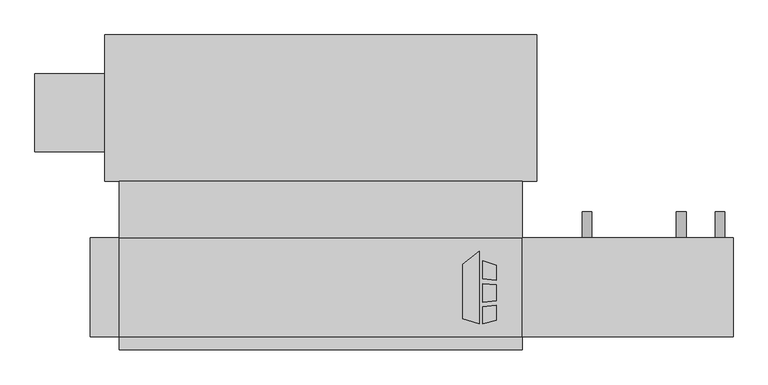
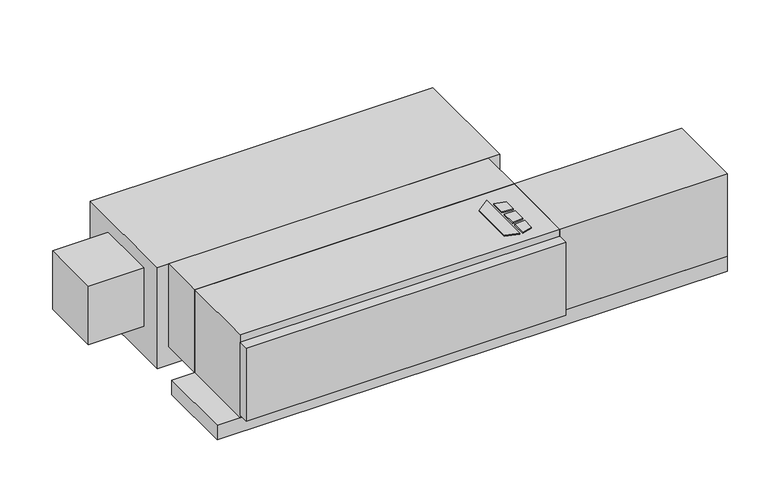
"""IFC4 building model written with IfcOpenShell, lengths in millimetres: proxy geometry, Concealed_Horizontal_Fan_Coil_Unit_With_Plenum_-_CPF_-_IEC_-_4-Pipe_RH : Size 06 - 115v/60Hz/1Ph - 4/1 Coil."""

from ifc_helpers import new_model, si_unit, point, frame, frame_2d, origin, origin_with_axes, place, context, project, spatial, polyline, circle_curve, trimmed, segment, composite_curve, outline, extrude, source, transform, mapped, element, save


def mechanical_equipment_e39a46a9(model_context):
    return source(origin(), model_context, "Body", "SweptSolid", [
        extrude(outline(polyline([(429.9019761, -193.0453476), (462.4602728, -167.6080184), (462.4602728, -309.5625), (429.9019761, -299.3429201), (429.9019761, -193.0453476)])), origin_with_axes(), (0.0, 0.0, 1.0), 3.175),
        extrude(outline(polyline([(469.2186058, -220.917352), (469.2186058, -186.4374379), (495.3, -194.6240115), (495.3, -224.1197446), (469.2186058, -220.917352)])), origin_with_axes(), (0.0, 0.0, 1.0), 3.175),
        extrude(outline(polyline([(495.3, -302.5740115), (469.2186058, -309.5625), (469.2186058, -276.3411996), (495.3, -272.7993564), (495.3, -302.5740115)])), origin_with_axes(), (0.0, 0.0, 1.0), 3.175),
        extrude(outline(polyline([(495.3, -233.2013277), (495.3, -264.451483), (469.2186058, -267.192748), (469.2186058, -231.3350378), (495.3, -233.2013277)])), origin_with_axes(), (0.0, 0.0, 1.0), 3.175),
        extrude(outline(polyline([(-241.3, -30.1625), (546.1, -30.1625), (546.1, -141.2875), (-241.3, -141.2875), (-241.3, -30.1625)])), frame((0.0, 0.0, -215.9), z_axis=(0.0, 0.0, 1.0), x_axis=(1.0, 0.0, 0.0)), (0.0, 0.0, 1.0), 215.9),
        extrude(outline(composite_curve([segment(trimmed(circle_curve(frame_2d((-158.75, 857.25)), 9.525), [point((-158.75, 866.775))], [point((-158.75, 847.725))], False, "CARTESIAN"), True, "CONTINUOUS"), segment(trimmed(circle_curve(frame_2d((-158.75, 857.25)), 9.525), [point((-158.75, 847.725))], [point((-158.75, 866.775))], False, "CARTESIAN"), True, "CONTINUOUS")], self_intersect=False)), frame((0.0, -141.2875, 0.0), z_axis=(0.0, 1.0, 0.0), x_axis=(0.0, 0.0, 1.0)), (0.0, 0.0, 1.0), 50.8),
        extrude(outline(composite_curve([segment(trimmed(circle_curve(frame_2d((-69.85, 857.25)), 9.525), [point((-69.85, 866.775))], [point((-69.85, 847.725))], False, "CARTESIAN"), True, "CONTINUOUS"), segment(trimmed(circle_curve(frame_2d((-69.85, 857.25)), 9.525), [point((-69.85, 847.725))], [point((-69.85, 866.775))], False, "CARTESIAN"), True, "CONTINUOUS")], self_intersect=False)), frame((0.0, -141.2875, 0.0), z_axis=(0.0, 1.0, 0.0), x_axis=(0.0, 0.0, 1.0)), (0.0, 0.0, 1.0), 50.8),
        extrude(outline(composite_curve([segment(trimmed(circle_curve(frame_2d((-69.85, 673.1)), 9.525), [point((-69.85, 682.625))], [point((-69.85, 663.575))], False, "CARTESIAN"), True, "CONTINUOUS"), segment(trimmed(circle_curve(frame_2d((-69.85, 673.1)), 9.525), [point((-69.85, 663.575))], [point((-69.85, 682.625))], False, "CARTESIAN"), True, "CONTINUOUS")], self_intersect=False)), frame((0.0, -141.2875, 0.0), z_axis=(0.0, 1.0, 0.0), x_axis=(0.0, 0.0, 1.0)), (0.0, 0.0, 1.0), 50.8),
        extrude(outline(composite_curve([segment(trimmed(circle_curve(frame_2d((-158.75, 673.1)), 9.525), [point((-158.75, 682.625))], [point((-158.75, 663.575))], False, "CARTESIAN"), True, "CONTINUOUS"), segment(trimmed(circle_curve(frame_2d((-158.75, 673.1)), 9.525), [point((-158.75, 663.575))], [point((-158.75, 682.625))], False, "CARTESIAN"), True, "CONTINUOUS")], self_intersect=False)), frame((0.0, -141.2875, 0.0), z_axis=(0.0, 1.0, 0.0), x_axis=(0.0, 0.0, 1.0)), (0.0, 0.0, 1.0), 50.8),
        extrude(outline(polyline([(958.85, -141.2875), (958.85, -334.9625), (546.1, -334.9625), (546.1, -141.2875), (958.85, -141.2875)])), frame((0.0, 0.0, -215.9), z_axis=(0.0, 0.0, 1.0), x_axis=(1.0, 0.0, 0.0)), (0.0, 0.0, 1.0), 215.9),
        extrude(outline(composite_curve([segment(trimmed(circle_curve(frame_2d((-241.3, 933.45)), 9.525), [point((-241.3, 923.925))], [point((-241.3, 942.975))], False, "CARTESIAN"), True, "CONTINUOUS"), segment(trimmed(circle_curve(frame_2d((-241.3, 933.45)), 9.525), [point((-241.3, 942.975))], [point((-241.3, 923.925))], False, "CARTESIAN"), True, "CONTINUOUS")], self_intersect=False)), frame((0.0, -141.2875, 0.0), z_axis=(0.0, 1.0, 0.0), x_axis=(0.0, 0.0, 1.0)), (0.0, 0.0, 1.0), 50.8),
        extrude(outline(polyline([(546.1, -334.9625), (546.1, -360.3625), (-241.3, -360.3625), (-241.3, -334.9625), (546.1, -334.9625)])), frame((0.0, 0.0, -209.55), z_axis=(0.0, 0.0, 1.0), x_axis=(1.0, 0.0, 0.0)), (0.0, 0.0, 1.0), 190.5),
        extrude(outline(polyline([(546.1, -334.9625), (-241.3, -334.9625), (-241.3, -141.2875), (546.1, -141.2875), (546.1, -334.9625)])), frame((0.0, 0.0, -215.9), z_axis=(0.0, 0.0, 1.0), x_axis=(1.0, 0.0, 0.0)), (0.0, 0.0, 1.0), 215.9),
        extrude(outline(polyline([(958.85, -141.2875), (958.85, -334.9625), (-298.45, -334.9625), (-298.45, -141.2875), (958.85, -141.2875)])), frame((0.0, 0.0, -254.0), z_axis=(0.0, 0.0, 1.0), x_axis=(1.0, 0.0, 0.0)), (0.0, 0.0, 1.0), 38.1),
        extrude(outline(polyline([(-406.4, 26.9875), (-406.4, 179.3875), (-269.875, 179.3875), (-269.875, 26.9875), (-406.4, 26.9875)])), frame((0.0, 0.0, -187.325), z_axis=(0.0, 0.0, 1.0), x_axis=(1.0, 0.0, 0.0)), (0.0, 0.0, 1.0), 152.4),
        extrude(outline(polyline([(-269.875, 255.5875), (574.675, 255.5875), (574.675, -30.1625), (-269.875, -30.1625), (-269.875, 255.5875)])), frame((0.0, 0.0, -263.525), z_axis=(0.0, 0.0, 1.0), x_axis=(1.0, 0.0, 0.0)), (0.0, 0.0, 1.0), 263.525),
    ])


if __name__ == "__main__":
    model = new_model("IFC4")
    model_context = context("Model", 3, world=origin())
    ifc_project = project(units=[si_unit("LENGTHUNIT", "METRE", prefix="MILLI")], contexts=[model_context])
    site = spatial("IfcSite", under=ifc_project)
    building = spatial("IfcBuilding", under=site)
    placement = place(None, origin())
    mechanical_equipment_shape = mechanical_equipment_e39a46a9(model_context)
    element("IfcBuildingElementProxy", 1, Name="Concealed_Horizontal_Fan_Coil_Unit_With_Plenum_-_CPF_-_IEC_-_4-Pipe_RH : Size 06 - 115v/60Hz/1Ph - 4/1 Coil", ObjectType="Concealed_Horizontal_Fan_Coil_Unit_With_Plenum_-_CPF_-_IEC_-_4-Pipe_RH : Size 06 - 115v/60Hz/1Ph - 4/1 Coil", at=placement, inside=building, context=model_context, shape_type="MappedRepresentation", body=[
        mapped(mechanical_equipment_shape, transform((0.0, 0.0, 0.0), x_axis=(1.0, 0.0, 0.0), y_axis=(0.0, 1.0, 0.0), z_axis=(0.0, 0.0, 1.0))),
    ])
    save(model, "model.ifc")
